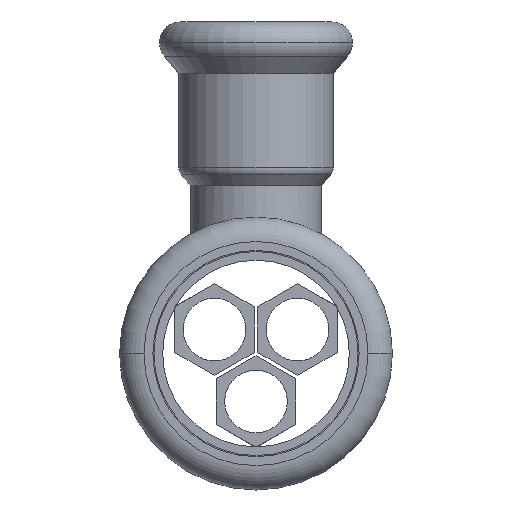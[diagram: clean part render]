
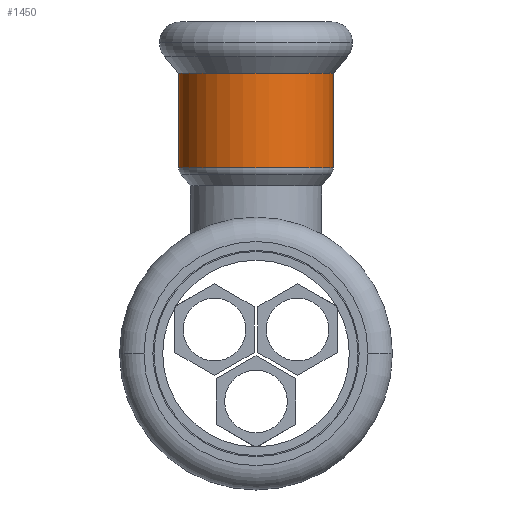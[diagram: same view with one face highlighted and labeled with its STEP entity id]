
A CAD part, front view. The second image highlights one B-rep face of the part: STEP entity #1450.
In plain terms, the highlighted cylindrical face has radius 10.625 mm (diameter 21.25 mm), a partial arc.
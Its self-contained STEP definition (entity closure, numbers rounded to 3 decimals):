
#800=CARTESIAN_POINT('',(-192.351,58.105,0.));
#810=VERTEX_POINT('',#800);
#990=CARTESIAN_POINT('',(-213.601,58.105,
0.));
#1000=VERTEX_POINT('',#990);
#1030=CARTESIAN_POINT('',(-202.976,58.105,0.));
#1040=DIRECTION('',(0.,1.,0.));
#1050=DIRECTION('',(-1.,0.,0.));
#1060=AXIS2_PLACEMENT_3D('',#1030,#1040,#1050);
#1070=CIRCLE('',#1060,10.625);
#1130=CARTESIAN_POINT('',(-202.976,51.34,0.));
#1140=DIRECTION('',(0.,-1.,0.));
#1150=DIRECTION('',(-1.,0.,0.));
#1160=AXIS2_PLACEMENT_3D('',#1130,#1140,#1150);
#1170=CYLINDRICAL_SURFACE('',#1160,10.625);
#1180=CARTESIAN_POINT('',(-213.601,51.34,0.));
#1190=DIRECTION('',(0.,-1.,0.));
#1200=VECTOR('',#1190,1.);
#1210=LINE('',#1180,#1200);
#1220=CARTESIAN_POINT('',(-213.601,45.103,0.));
#1230=VERTEX_POINT('',#1220);
#1240=EDGE_CURVE('',#1000,#1230,#1210,.T.);
#1250=ORIENTED_EDGE('',*,*,#1240,.T.);
#1260=EDGE_CURVE('',#1000,#810,#1070,.T.);
#1270=ORIENTED_EDGE('',*,*,#1260,.F.);
#1280=CARTESIAN_POINT('',(-192.351,51.34,
0.));
#1290=DIRECTION('',(0.,-1.,0.));
#1300=VECTOR('',#1290,1.);
#1310=LINE('',#1280,#1300);
#1320=CARTESIAN_POINT('',(-192.351,45.103,0.));
#1330=VERTEX_POINT('',#1320);
#1340=EDGE_CURVE('',#810,#1330,#1310,.T.);
#1350=ORIENTED_EDGE('',*,*,#1340,.F.);
#1360=CARTESIAN_POINT('',(-202.976,45.103,0.));
#1370=DIRECTION('',(0.,-1.,0.));
#1380=DIRECTION('',(-1.,0.,0.));
#1390=AXIS2_PLACEMENT_3D('',#1360,#1370,#1380);
#1400=CIRCLE('',#1390,10.625);
#1410=EDGE_CURVE('',#1330,#1230,#1400,.T.);
#1420=ORIENTED_EDGE('',*,*,#1410,.F.);
#1430=EDGE_LOOP('',(#1420,#1350,#1270,#1250));
#1440=FACE_OUTER_BOUND('',#1430,.T.);
#1450=ADVANCED_FACE('',(#1440),#1170,.T.);
